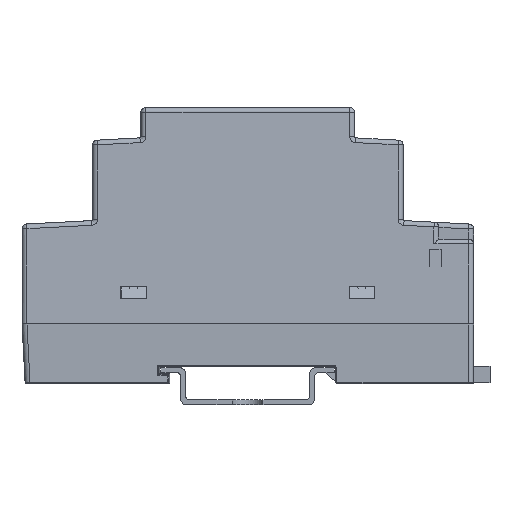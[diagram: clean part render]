
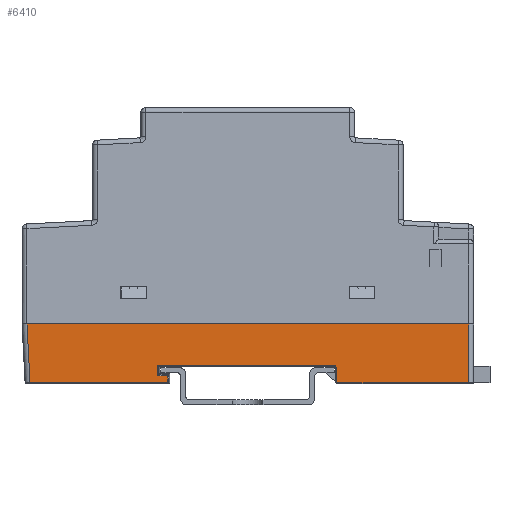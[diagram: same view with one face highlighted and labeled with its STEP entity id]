
A CAD part, left-side view. The second image highlights one B-rep face of the part: STEP entity #6410.
In plain terms, the highlighted planar face has unit normal (-1, 0, 0).
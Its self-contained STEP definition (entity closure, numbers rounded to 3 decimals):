
#1302=CARTESIAN_POINT('',(-26.5,44.499,12.));
#1334=DIRECTION('',(0.,-1.,0.));
#1335=VECTOR('',#1334,88.999);
#1336=CARTESIAN_POINT('',(-26.5,44.499,12.));
#1337=LINE('',#1336,#1335);
#1390=CARTESIAN_POINT('',(-26.5,43.88,0.2));
#1481=CARTESIAN_POINT('',(-26.5,16.146,1.604));
#1491=DIRECTION('',(0.,1.,0.));
#1492=VECTOR('',#1491,26.56);
#1493=CARTESIAN_POINT('',(-26.5,-44.5,0.2));
#1494=LINE('',#1493,#1492);
#1495=DIRECTION('',(0.,-0.052,-0.999));
#1496=VECTOR('',#1495,3.505);
#1497=CARTESIAN_POINT('',(-26.5,-17.756,3.7));
#1498=LINE('',#1497,#1496);
#1499=DIRECTION('',(0.,1.,0.));
#1500=VECTOR('',#1499,35.904);
#1501=CARTESIAN_POINT('',(-26.5,-17.756,3.7));
#1502=LINE('',#1501,#1500);
#1503=DIRECTION('',(0.,0.,-1.));
#1504=VECTOR('',#1503,2.096);
#1505=CARTESIAN_POINT('',(-26.5,18.148,3.7));
#1506=LINE('',#1505,#1504);
#1507=DIRECTION('',(0.,1.,0.));
#1508=VECTOR('',#1507,2.001);
#1509=CARTESIAN_POINT('',(-26.5,16.146,1.604));
#1510=LINE('',#1509,#1508);
#1511=DIRECTION('',(0.,0.,1.));
#1512=VECTOR('',#1511,1.404);
#1513=CARTESIAN_POINT('',(-26.5,16.146,0.2));
#1514=LINE('',#1513,#1512);
#1515=DIRECTION('',(0.,1.,0.));
#1516=VECTOR('',#1515,27.734);
#1517=CARTESIAN_POINT('',(-26.5,16.146,0.2));
#1518=LINE('',#1517,#1516);
#1519=DIRECTION('',(0.,-0.052,-0.999));
#1520=VECTOR('',#1519,11.816);
#1521=CARTESIAN_POINT('',(-26.5,44.499,12.));
#1522=LINE('',#1521,#1520);
#1523=DIRECTION('',(0.,0.,-1.));
#1524=VECTOR('',#1523,11.8);
#1525=CARTESIAN_POINT('',(-26.5,-44.5,12.));
#1526=LINE('',#1525,#1524);
#2815=CARTESIAN_POINT('',(-26.5,18.148,3.7));
#2823=CARTESIAN_POINT('',(-26.5,-17.756,3.7));
#3880=CARTESIAN_POINT('',(-26.5,-44.5,12.));
#3882=VERTEX_POINT('',#3880);
#4101=VERTEX_POINT('',#1302);
#4511=VERTEX_POINT('',#1390);
#4516=CARTESIAN_POINT('',(-26.5,-44.5,0.2));
#4517=CARTESIAN_POINT('',(-26.5,-17.94,0.2));
#4518=VERTEX_POINT('',#4516);
#4519=VERTEX_POINT('',#4517);
#4563=VERTEX_POINT('',#2823);
#4565=VERTEX_POINT('',#2815);
#4677=VERTEX_POINT('',#1481);
#4722=CARTESIAN_POINT('',(-26.5,16.146,0.2));
#4723=VERTEX_POINT('',#4722);
#4724=CARTESIAN_POINT('',(-26.5,18.148,1.604));
#4725=VERTEX_POINT('',#4724);
#6387=CARTESIAN_POINT('',(-26.5,45.5,0.));
#6388=DIRECTION('',(-1.,0.,0.));
#6389=DIRECTION('',(0.,-1.,0.));
#6390=AXIS2_PLACEMENT_3D('',#6387,#6388,#6389);
#6391=PLANE('',#6390);
#6393=ORIENTED_EDGE('',*,*,#6392,.T.);
#6395=ORIENTED_EDGE('',*,*,#6394,.F.);
#6397=ORIENTED_EDGE('',*,*,#6396,.T.);
#6399=ORIENTED_EDGE('',*,*,#6398,.T.);
#6400=ORIENTED_EDGE('',*,*,#6378,.F.);
#6401=ORIENTED_EDGE('',*,*,#6367,.F.);
#6403=ORIENTED_EDGE('',*,*,#6402,.T.);
#6404=ORIENTED_EDGE('',*,*,#6186,.F.);
#6405=ORIENTED_EDGE('',*,*,#6125,.T.);
#6407=ORIENTED_EDGE('',*,*,#6406,.T.);
#6408=EDGE_LOOP('',(#6393,#6395,#6397,#6399,#6400,#6401,#6403,#6404,#6405,
#6407));
#6409=FACE_OUTER_BOUND('',#6408,.F.);
#6125=EDGE_CURVE('',#4101,#3882,#1337,.T.);
#6186=EDGE_CURVE('',#4101,#4511,#1522,.T.);
#6367=EDGE_CURVE('',#4723,#4677,#1514,.T.);
#6378=EDGE_CURVE('',#4677,#4725,#1510,.T.);
#6392=EDGE_CURVE('',#4518,#4519,#1494,.T.);
#6394=EDGE_CURVE('',#4563,#4519,#1498,.T.);
#6396=EDGE_CURVE('',#4563,#4565,#1502,.T.);
#6398=EDGE_CURVE('',#4565,#4725,#1506,.T.);
#6402=EDGE_CURVE('',#4723,#4511,#1518,.T.);
#6406=EDGE_CURVE('',#3882,#4518,#1526,.T.);
#6410=ADVANCED_FACE('',(#6409),#6391,.T.);
